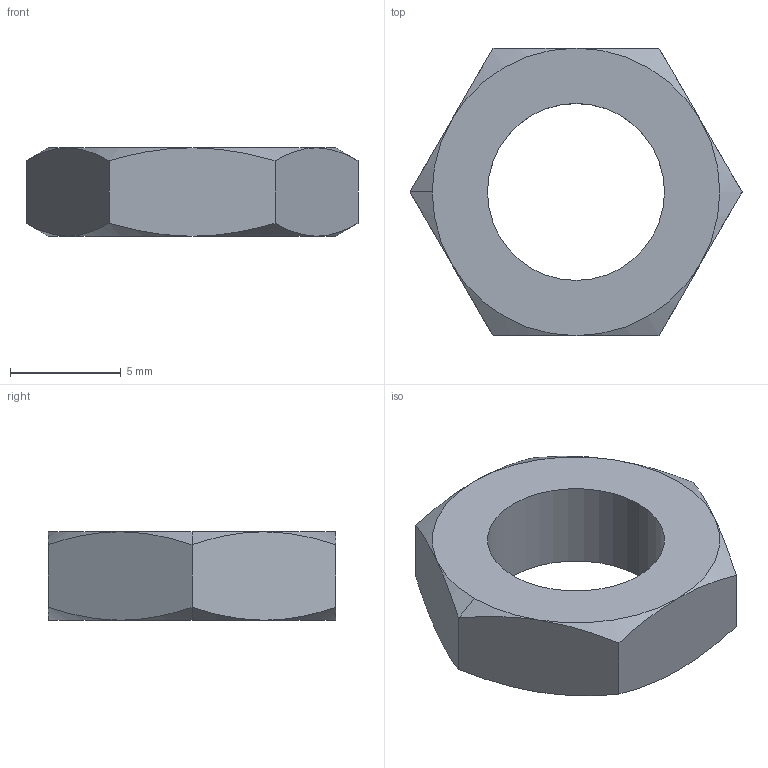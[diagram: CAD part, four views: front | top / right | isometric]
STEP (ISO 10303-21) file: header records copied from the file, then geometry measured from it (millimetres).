
FILE_DESCRIPTION (( 'STEP AP203' ), '1' );
FILE_NAME ('32700.W0514.step', '2011-03-28T12:07:44', ( 'Wixroyd' ), ( 'Wixroyd' ), 'SwSTEP 2.0', 'SolidWorks 2009', '' );
FILE_SCHEMA (( 'CONFIG_CONTROL_DESIGN' ));
Length unit declared in the file: millimetre
Products named in the file (1): 32700.W0514
Bounding box: 15.01 x 13 x 4 mm (x, y, z)
Volume: 379.6 mm3; surface area: 459.1 mm2
Topology: 1 solids, 1 shells, 24 faces, 52 edges, 30 vertices
Faces by surface type: cone 14, plane 8, cylinder 2
Entity records: 811 total; most frequent: CARTESIAN_POINT 243, ORIENTED_EDGE 104, DIRECTION 96, EDGE_CURVE 52, AXIS2_PLACEMENT_3D 43, VERTEX_POINT 30, EDGE_LOOP 26, ADVANCED_FACE 24
